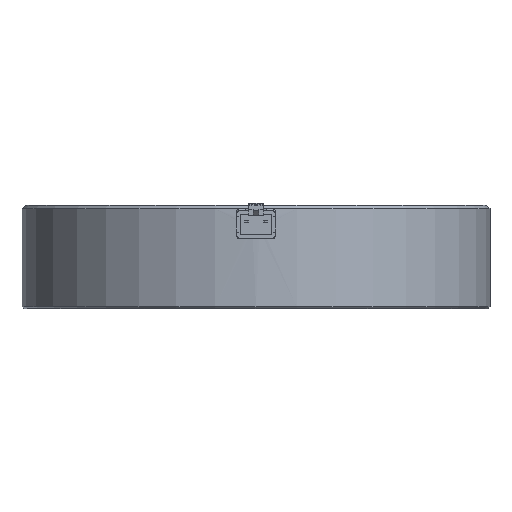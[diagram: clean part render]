
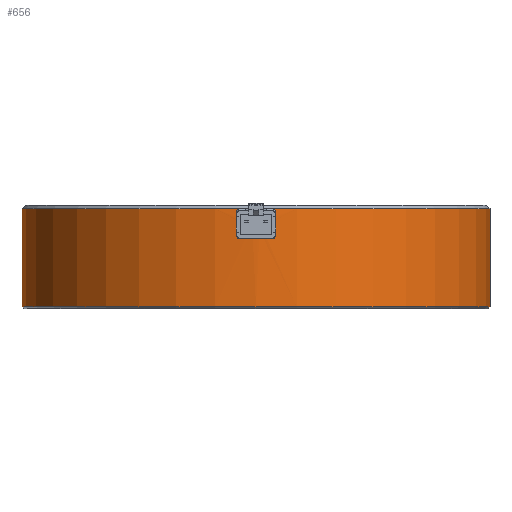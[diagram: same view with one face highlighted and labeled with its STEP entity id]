
A CAD part, front view. The second image highlights one B-rep face of the part: STEP entity #656.
In plain terms, the highlighted cylindrical face has radius 63.25 mm (diameter 126.5 mm), a full revolution.
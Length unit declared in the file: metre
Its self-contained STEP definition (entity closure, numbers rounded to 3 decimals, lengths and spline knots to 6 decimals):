
#656=ADVANCED_FACE('1:6604',(#1852,#1853,#1854),#1855,.T.);
#1852=FACE_OUTER_BOUND('',#3495,.T.);
#1853=FACE_OUTER_BOUND('',#3496,.T.);
#1854=FACE_BOUND('',#3497,.T.);
#1855=CYLINDRICAL_SURFACE('',#3498,0.06325);
#3495=EDGE_LOOP('',(#6319));
#3496=EDGE_LOOP('',(#6320));
#3497=EDGE_LOOP('',(#6321));
#3498=AXIS2_PLACEMENT_3D('',#6322,#6323,#6324);
#6319=ORIENTED_EDGE('',*,*,#8401,.T.);
#6320=ORIENTED_EDGE('',*,*,#8406,.T.);
#6321=ORIENTED_EDGE('',*,*,#8407,.F.);
#6322=CARTESIAN_POINT('',(0.0,0.06168,0.00484));
#6323=DIRECTION('',(0.,0.,1.0));
#6324=DIRECTION('',(-1.0,0.,0.));
#8401=EDGE_CURVE('1:6697',#8621,#8621,#8622,.F.);
#8406=EDGE_CURVE('1:6721',#8629,#8629,#8630,.F.);
#8407=EDGE_CURVE('1:6712',#8631,#8631,#8632,.T.);
#8621=VERTEX_POINT('',#8871);
#8622=CIRCLE('',#8872,0.06325);
#8629=VERTEX_POINT('',#8910);
#8630=CIRCLE('',#8911,0.06325);
#8631=VERTEX_POINT('',#8912);
#8632=B_SPLINE_CURVE_WITH_KNOTS('',3,(#8913,#8914,#8915,#8916,#8917,#8918,#8919,#8920,#8921,#8922,#8923,#8924,#8925,#8926,#8927,#8928,#8929,#8930,#8931,#8932,#8933,#8934,#8935,#8936,#8937,#8938,#8939,#8940,#8941,#8942,#8943,#8944,#8945,#8946,#8947,#8948,#8949,#8950,#8951,#8952,#8953,#8954,#8955,#8956,#8957,#8958,#8959,#8960,#8961,#8962,#8963,#8964,#8965,#8966,#8967,#8968),.UNSPECIFIED.,.T.,.F.,(2,2,2,2,2,2,2,2,2,2,2,2,2,2,2,2,2,2,2,2,2,2,2,2,2,2,2,2,2,2),(-0.000762,0.0,0.000381,0.000762,0.001143,0.001524,0.002286,0.003048,0.003429,0.00381,0.004191,0.004572,0.004953,0.005334,0.005715,0.006096,0.006858,0.00762,0.008001,0.008382,0.008763,0.009144,0.009525,0.009906,0.010287,0.010668,0.011049,0.01143,0.012193,0.012574),.UNSPECIFIED.);
#8871=CARTESIAN_POINT('',(-0.06325,0.06168,-0.00266));
#8872=AXIS2_PLACEMENT_3D('',#9210,#9211,#9212);
#8910=CARTESIAN_POINT('',(0.06325,0.06168,0.02384));
#8911=AXIS2_PLACEMENT_3D('',#9216,#9217,#9218);
#8912=CARTESIAN_POINT('',(0.00195,-0.00154,0.01984));
#8913=CARTESIAN_POINT('',(0.00195,-0.00154,0.019583));
#8914=CARTESIAN_POINT('',(0.00195,-0.00154,0.019969));
#8915=CARTESIAN_POINT('',(0.001937,-0.00154,0.020096));
#8916=CARTESIAN_POINT('',(0.001888,-0.001542,0.020345));
#8917=CARTESIAN_POINT('',(0.00185,-0.001543,0.020469));
#8918=CARTESIAN_POINT('',(0.001752,-0.001546,0.020705));
#8919=CARTESIAN_POINT('',(0.001693,-0.001547,0.020817));
#8920=CARTESIAN_POINT('',(0.001551,-0.001551,0.021029));
#8921=CARTESIAN_POINT('',(0.001469,-0.001553,0.021129));
#8922=CARTESIAN_POINT('',(0.001199,-0.001559,0.021399));
#8923=CARTESIAN_POINT('',(0.000981,-0.001563,0.021545));
#8924=CARTESIAN_POINT('',(0.000512,-0.001568,0.021739));
#8925=CARTESIAN_POINT('',(0.000255,-0.00157,0.02179));
#8926=CARTESIAN_POINT('',(-0.000126,-0.00157,0.02179));
#8927=CARTESIAN_POINT('',(-0.000255,-0.00157,0.021778));
#8928=CARTESIAN_POINT('',(-0.000505,-0.001568,0.021728));
#8929=CARTESIAN_POINT('',(-0.000627,-0.001567,0.021691));
#8930=CARTESIAN_POINT('',(-0.000863,-0.001564,0.021594));
#8931=CARTESIAN_POINT('',(-0.000977,-0.001562,0.021533));
#8932=CARTESIAN_POINT('',(-0.001189,-0.001559,0.021392));
#8933=CARTESIAN_POINT('',(-0.001287,-0.001557,0.021311));
#8934=CARTESIAN_POINT('',(-0.001469,-0.001553,0.021129));
#8935=CARTESIAN_POINT('',(-0.00155,-0.001551,0.02103));
#8936=CARTESIAN_POINT('',(-0.001691,-0.001547,0.020819));
#8937=CARTESIAN_POINT('',(-0.001752,-0.001546,0.020705));
#8938=CARTESIAN_POINT('',(-0.00185,-0.001543,0.020469));
#8939=CARTESIAN_POINT('',(-0.001887,-0.001542,0.020347));
#8940=CARTESIAN_POINT('',(-0.001937,-0.00154,0.020098));
#8941=CARTESIAN_POINT('',(-0.00195,-0.00154,0.019968));
#8942=CARTESIAN_POINT('',(-0.00195,-0.00154,0.019587));
#8943=CARTESIAN_POINT('',(-0.001899,-0.001542,0.01933));
#8944=CARTESIAN_POINT('',(-0.001705,-0.001547,0.018861));
#8945=CARTESIAN_POINT('',(-0.00156,-0.001551,0.018643));
#8946=CARTESIAN_POINT('',(-0.00129,-0.001557,0.018373));
#8947=CARTESIAN_POINT('',(-0.00119,-0.001559,0.018291));
#8948=CARTESIAN_POINT('',(-0.000978,-0.001562,0.018149));
#8949=CARTESIAN_POINT('',(-0.000866,-0.001564,0.018089));
#8950=CARTESIAN_POINT('',(-0.00063,-0.001567,0.017991));
#8951=CARTESIAN_POINT('',(-0.000506,-0.001568,0.017953));
#8952=CARTESIAN_POINT('',(-0.000257,-0.00157,0.017903));
#8953=CARTESIAN_POINT('',(-0.000131,-0.00157,0.017891));
#8954=CARTESIAN_POINT('',(0.000127,-0.00157,0.01789));
#8955=CARTESIAN_POINT('',(0.000254,-0.00157,0.017903));
#8956=CARTESIAN_POINT('',(0.000503,-0.001568,0.017952));
#8957=CARTESIAN_POINT('',(0.000627,-0.001567,0.017989));
#8958=CARTESIAN_POINT('',(0.000863,-0.001564,0.018087));
#8959=CARTESIAN_POINT('',(0.000975,-0.001563,0.018147));
#8960=CARTESIAN_POINT('',(0.001187,-0.001559,0.018288));
#8961=CARTESIAN_POINT('',(0.001288,-0.001557,0.018371));
#8962=CARTESIAN_POINT('',(0.001468,-0.001553,0.01855));
#8963=CARTESIAN_POINT('',(0.001549,-0.001551,0.018648));
#8964=CARTESIAN_POINT('',(0.001691,-0.001547,0.018861));
#8965=CARTESIAN_POINT('',(0.001752,-0.001546,0.018975));
#8966=CARTESIAN_POINT('',(0.001898,-0.001542,0.019327));
#8967=CARTESIAN_POINT('',(0.00195,-0.00154,0.019583));
#8968=CARTESIAN_POINT('',(0.00195,-0.00154,0.019969));
#9210=CARTESIAN_POINT('',(0.,0.06168,-0.00266));
#9211=DIRECTION('',(0.,0.0,-1.0));
#9212=DIRECTION('',(-1.0,0.0,0.));
#9216=CARTESIAN_POINT('',(0.,0.06168,0.02384));
#9217=DIRECTION('',(0.,-0.0,1.0));
#9218=DIRECTION('',(1.0,0.0,0.));
